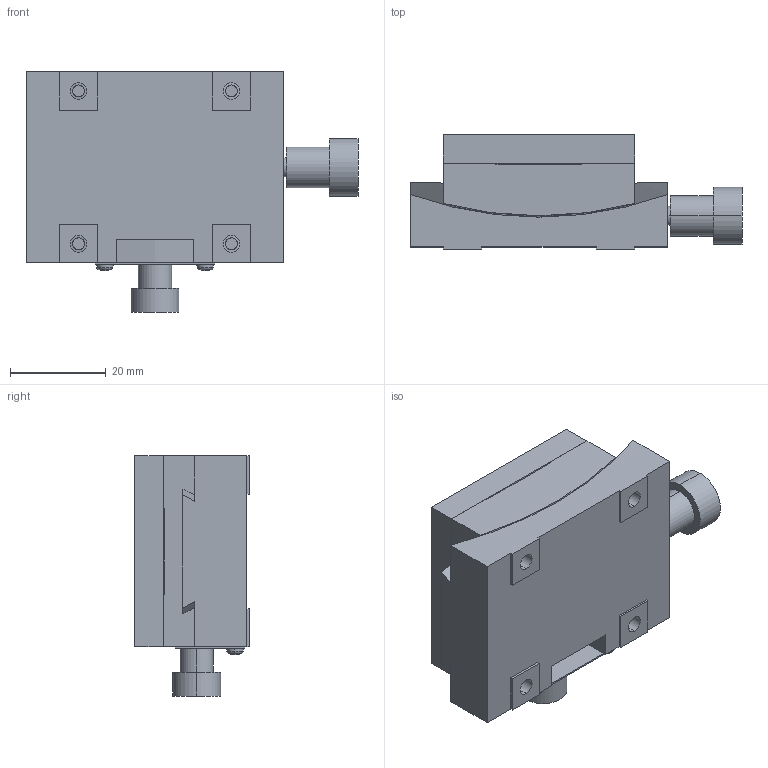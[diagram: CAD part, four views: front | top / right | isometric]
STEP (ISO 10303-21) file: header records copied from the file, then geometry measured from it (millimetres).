
FILE_DESCRIPTION (( 'STEP AP203' ), '1' );
FILE_NAME ('TS-C412.STEP', '2008-02-27T08:23:26', ( '' ), ( '' ), 'SwSTEP 2.0', 'SolidWorks 2007', '' );
FILE_SCHEMA (( 'CONFIG_CONTROL_DESIGN' ));
Length unit declared in the file: millimetre
Products named in the file (4): TS-C412; TS-C412-1_蹬怮椔; TS-C412-2_蹬怮椔; TS-C412-3_蹬怮椔
Assembly tree (3 placements, depth 2):
  TS-C412
    TS-C412-1_蹬怮椔
    TS-C412-3_蹬怮椔
    TS-C412-2_蹬怮椔
Bounding box: 69.5 x 24 x 50.3 mm (x, y, z)
Volume: 44247.2 mm3; surface area: 19566.1 mm2
Topology: 3 solids, 3 shells, 208 faces, 507 edges, 336 vertices
Faces by surface type: cylinder 105, plane 87, cone 8, torus 4, sphere 4
Entity records: 7047 total; most frequent: CARTESIAN_POINT 1489, DIRECTION 1129, ORIENTED_EDGE 1014, EDGE_CURVE 507, AXIS2_PLACEMENT_3D 436, VERTEX_POINT 336, EDGE_LOOP 275, LINE 257
